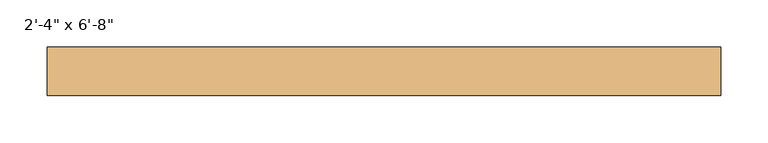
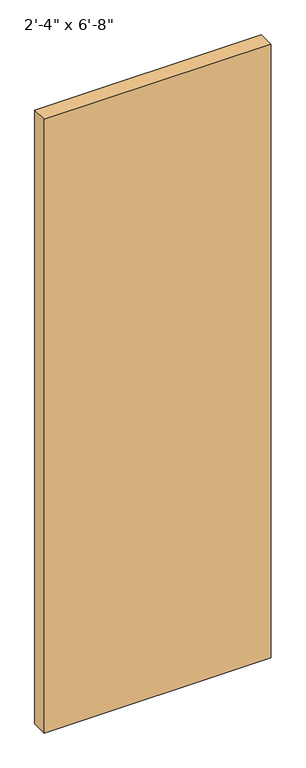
"""IFC4 building model written with IfcOpenShell, lengths in millimetres: door geometry."""

import ifcopenshell
import ifcopenshell.guid

model = None  # the IFC model being written
_history = None  # IfcOwnerHistory: only IFC2X3 demands one
_inside = {}  # id of a spatial element -> (the spatial element, [elements in it])
_under = {}  # id of a project, library or spatial element -> (it, [spatial elements below it])
_declared = {}  # id of a project -> (the project, [libraries it declares])
_typed = {}  # id of a type object -> (the type object, [elements of that type])
_made_of = {}  # id of a material, layer set ... -> (it, [elements and type objects made of it])


def new_model(schema):
    """Start an empty IFC model of exactly this schema.

    Asked for "IFC4X3", IfcOpenShell would pick the latest addendum, in which some entities
    have other attributes; the version numbers below select the first issue.
    IFC2X3 requires an IfcOwnerHistory on every rooted entity: one is made here for all.
    """
    global model, _history
    if schema == "IFC4X3":
        model = ifcopenshell.file(schema_version=(4, 3, 0, 0))
    else:
        model = ifcopenshell.file(schema=schema)
    _inside.clear()
    _under.clear()
    _declared.clear()
    _typed.clear()
    _made_of.clear()
    _history = None
    if model.schema == "IFC2X3":
        org = make("IfcOrganization", Name="unknown")
        user = make(
            "IfcPersonAndOrganization",
            ThePerson=make("IfcPerson", FamilyName="unknown"),
            TheOrganization=org,
        )
        app = make(
            "IfcApplication",
            ApplicationDeveloper=org,
            Version="unknown",
            ApplicationFullName="unknown",
            ApplicationIdentifier="unknown",
        )
        _history = make(
            "IfcOwnerHistory",
            OwningUser=user,
            OwningApplication=app,
            ChangeAction="ADDED",
            CreationDate=0,
        )
    return model


def make(cls, **values):
    """One entity of the class cls with the attributes given. An attribute that is None is left unset."""
    return model.create_entity(
        cls, **{name: value for name, value in values.items() if value is not None}
    )


def rooted(cls, **values):
    """An entity with a GlobalId (a new one), such as an element, a storey or a relation."""
    return make(cls, GlobalId=ifcopenshell.guid.new(), OwnerHistory=_history, **values)


def si_unit(unit_type, name, prefix=None):
    """IfcSIUnit, for example si_unit("LENGTHUNIT", "METRE", prefix="MILLI")."""
    return make("IfcSIUnit", UnitType=unit_type, Prefix=prefix, Name=name)


def assignment(units):
    """IfcUnitAssignment: the units of a project."""
    return None if units is None else make("IfcUnitAssignment", Units=units)


def point(xyz):
    """IfcCartesianPoint."""
    return None if xyz is None else make("IfcCartesianPoint", Coordinates=xyz)


def direction(xyz):
    """IfcDirection."""
    return None if xyz is None else make("IfcDirection", DirectionRatios=xyz)


def frame(location, z_axis=None, x_axis=None):
    """IfcAxis2Placement3D, a coordinate frame: its origin and axes. An axis left out is left unset."""
    return make(
        "IfcAxis2Placement3D",
        Location=point(location),
        Axis=direction(z_axis),
        RefDirection=direction(x_axis),
    )


def origin():
    """The frame at (0, 0, 0) with its axes left unset."""
    return frame((0.0, 0.0, 0.0))


def origin_with_axes():
    """The frame at (0, 0, 0) with the z axis (0, 0, 1) and the x axis (1, 0, 0) written out."""
    return frame((0.0, 0.0, 0.0), z_axis=(0.0, 0.0, 1.0), x_axis=(1.0, 0.0, 0.0))


def place(relative_to, where):
    """IfcLocalPlacement: puts the frame where relative to a parent placement (None: the world)."""
    return make(
        "IfcLocalPlacement", PlacementRelTo=relative_to, RelativePlacement=where
    )


def context(
    kind, dimensions, precision=None, world=None, true_north=None, identifier=None
):
    """IfcGeometricRepresentationContext, for example the 3D "Model" context."""
    return make(
        "IfcGeometricRepresentationContext",
        ContextIdentifier=identifier,
        ContextType=kind,
        CoordinateSpaceDimension=dimensions,
        Precision=precision,
        WorldCoordinateSystem=world,
        TrueNorth=true_north,
    )


def project(units=None, contexts=None):
    """IfcProject with its units and contexts."""
    return rooted(
        "IfcProject",
        Name="project",
        RepresentationContexts=contexts,
        UnitsInContext=assignment(units),
    )


def spatial(cls, under=None, at=None, **own):
    """A site, building, storey or space (cls), placed at a placement, below another one or the project."""
    s = rooted(cls, ObjectPlacement=at, **own)
    if under is not None:
        _under.setdefault(under.id(), (under, []))[1].append(s)
    return s


def polyline(points):
    """IfcPolyline through the points."""
    return make("IfcPolyline", Points=[point(p) for p in points])


def outline(outer, holes=None, kind="AREA"):
    """IfcArbitraryClosedProfileDef: a profile drawn as a closed curve; with holes, ...WithVoids."""
    if holes is None:
        return make("IfcArbitraryClosedProfileDef", ProfileType=kind, OuterCurve=outer)
    return make(
        "IfcArbitraryProfileDefWithVoids",
        ProfileType=kind,
        OuterCurve=outer,
        InnerCurves=holes,
    )


def extrude(swept, where, along, depth):
    """IfcExtrudedAreaSolid: the profile swept, set in the frame where, extruded along a direction by depth."""
    return make(
        "IfcExtrudedAreaSolid",
        SweptArea=swept,
        Position=where,
        ExtrudedDirection=direction(along),
        Depth=depth,
    )


def shape(context_of_items, identifier, shape_type, items):
    """IfcShapeRepresentation: the items that make up one representation, for example the "Body"."""
    return make(
        "IfcShapeRepresentation",
        ContextOfItems=context_of_items,
        RepresentationIdentifier=identifier,
        RepresentationType=shape_type,
        Items=items,
    )


def source(mapping_origin, context_of_items, identifier, shape_type, items):
    """IfcRepresentationMap: a shape defined once, which mapped items show again and again."""
    return make(
        "IfcRepresentationMap",
        MappingOrigin=mapping_origin,
        MappedRepresentation=shape(context_of_items, identifier, shape_type, items),
    )


def transform(
    local_origin,
    x_axis=None,
    y_axis=None,
    z_axis=None,
    scale=None,
    scale2=None,
    scale3=None,
    uniform=True,
):
    """IfcCartesianTransformationOperator3D, or its non-uniform kind. x_axis, y_axis, z_axis: its Axis1, 2, 3."""
    if uniform:
        return make(
            "IfcCartesianTransformationOperator3D",
            Axis1=direction(x_axis),
            Axis2=direction(y_axis),
            LocalOrigin=point(local_origin),
            Scale=scale,
            Axis3=direction(z_axis),
        )
    return make(
        "IfcCartesianTransformationOperator3DnonUniform",
        Axis1=direction(x_axis),
        Axis2=direction(y_axis),
        LocalOrigin=point(local_origin),
        Scale=scale,
        Axis3=direction(z_axis),
        Scale2=scale2,
        Scale3=scale3,
    )


def mapped(mapping_source, mapping_target):
    """IfcMappedItem: shows the shape of a source again, moved by a transform."""
    return make(
        "IfcMappedItem", MappingSource=mapping_source, MappingTarget=mapping_target
    )


def made_of(thing, what):
    """Note that an element or type object is made of a material, layer set ...; save() writes the relation."""
    if what is not None:
        _made_of.setdefault(what.id(), (what, []))[1].append(thing)
    return thing


def element(
    cls,
    number,
    at=None,
    inside=None,
    cuts=None,
    type_object=None,
    material=None,
    context=None,
    identifier="Body",
    shape_type=None,
    held_by="IfcProductDefinitionShape",
    body=None,
    shapes=None,
    **own,
):
    """One element of the class cls, such as IfcWall. Its Tag is "e" and its number.

    at: its placement. inside: the storey or other place that contains it. cuts: it is an
    opening in that element (IfcRelVoidsElement). A single representation is given by context,
    identifier, shape_type and body (its items); several are given by shapes. held_by: the class
    of the entity that holds the representations. save() writes the other relations.
    """
    e = rooted(cls, Tag="e%d" % number, ObjectPlacement=at, **own)
    if body is not None:
        shapes = [shape(context, identifier, shape_type, body)]
    if shapes is not None:
        e.Representation = make(held_by, Representations=shapes)
    if inside is not None:
        _inside.setdefault(inside.id(), (inside, []))[1].append(e)
    if cuts is not None:
        rooted(
            "IfcRelVoidsElement", RelatingBuildingElement=cuts, RelatedOpeningElement=e
        )
    if type_object is not None:
        _typed.setdefault(type_object.id(), (type_object, []))[1].append(e)
    return made_of(e, material)


def aggregate(whole, parts):
    """IfcRelAggregates: a whole, such as a stair, and the parts it consists of."""
    return rooted("IfcRelAggregates", RelatingObject=whole, RelatedObjects=parts)


def save(model, path):
    """Write the relations noted so far, then the file.

    IfcRelAggregates (storeys below a building ...), IfcRelContainedInSpatialStructure (elements
    in a storey), IfcRelDefinesByType, IfcRelAssociatesMaterial and IfcRelDeclares: one each for
    every whole, place, type object, material and project.
    """
    for whole, parts in _under.values():
        aggregate(whole, parts)
    for where, things in _inside.values():
        rooted(
            "IfcRelContainedInSpatialStructure",
            RelatedElements=things,
            RelatingStructure=where,
        )
    for kind, things in _typed.values():
        rooted("IfcRelDefinesByType", RelatedObjects=things, RelatingType=kind)
    for what, things in _made_of.values():
        rooted("IfcRelAssociatesMaterial", RelatedObjects=things, RelatingMaterial=what)
    for by, libraries in _declared.values():
        rooted("IfcRelDeclares", RelatingContext=by, RelatedDefinitions=libraries)
    model.write(path)


def door_faf8bfec(model_context):
    return source(origin(), model_context, "Body", "SweptSolid", [
        extrude(outline(polyline([(355.6, 6.1515625), (-355.6, 6.1515625), (-355.6, 57.15), (355.6, 57.15), (355.6, 6.1515625)])), origin_with_axes(), (0.0, 0.0, 1.0), 2032.0),
    ])


if __name__ == "__main__":
    model = new_model("IFC4")
    model_context = context("Model", 3, world=origin())
    ifc_project = project(units=[si_unit("LENGTHUNIT", "METRE", prefix="MILLI")], contexts=[model_context])
    site = spatial("IfcSite", under=ifc_project)
    building = spatial("IfcBuilding", under=site)
    placement = place(None, origin())
    door_shape = door_faf8bfec(model_context)
    element("IfcDoor", 1, ObjectType="Planitar - Single Door_Flush Panel : 2'-4\" x 6'-8\"", at=placement, inside=building, context=model_context, shape_type="MappedRepresentation", body=[
        mapped(door_shape, transform((0.0, 0.0, 0.0), x_axis=(1.0, 0.0, 0.0), y_axis=(0.0, 1.0, 0.0), z_axis=(0.0, 0.0, 1.0))),
    ])
    save(model, "model.ifc")
